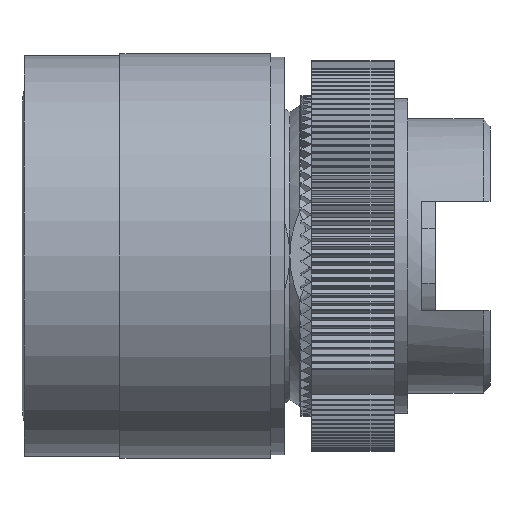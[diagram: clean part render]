
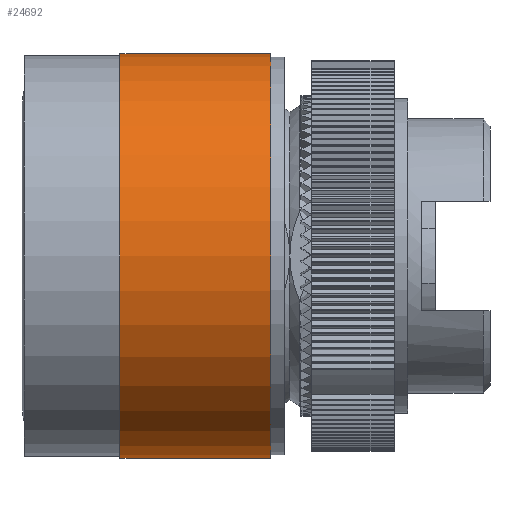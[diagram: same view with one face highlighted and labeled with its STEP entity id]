
A CAD part, left-side view. The second image highlights one B-rep face of the part: STEP entity #24692.
In plain terms, the highlighted cylindrical face has radius 14.75 mm (diameter 29.5 mm), a full revolution.
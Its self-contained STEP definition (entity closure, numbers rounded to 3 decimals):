
#2681 = DIRECTION ( 'NONE',  ( 0., 0., 1. ) ) ;
#2795 = EDGE_LOOP ( 'NONE', ( #11666 ) ) ;
#3255 = EDGE_CURVE ( 'NONE', #3861, #3861, #6508, .T. ) ;
#3861 = VERTEX_POINT ( 'NONE', #31217 ) ;
#4265 = VERTEX_POINT ( 'NONE', #21166 ) ;
#6508 = CIRCLE ( 'NONE', #18770, 14.75 ) ;
#7631 = EDGE_LOOP ( 'NONE', ( #23657 ) ) ;
#7805 = FACE_OUTER_BOUND ( 'NONE', #2795, .T. ) ;
#9392 = FACE_OUTER_BOUND ( 'NONE', #7631, .T. ) ;
#11547 = AXIS2_PLACEMENT_3D ( 'NONE', #17766, #15465, #2681 ) ;
#11666 = ORIENTED_EDGE ( 'NONE', *, *, #3255, .F. ) ;
#12221 = AXIS2_PLACEMENT_3D ( 'NONE', #18345, #20875, #26823 ) ;
#12724 = DIRECTION ( 'NONE',  ( 0., 0., 1. ) ) ;
#15465 = DIRECTION ( 'NONE',  ( 0., 1., 0. ) ) ;
#17442 = DIRECTION ( 'NONE',  ( 0., 1., 0. ) ) ;
#17766 = CARTESIAN_POINT ( 'NONE',  ( 0., 0., 0. ) ) ;
#18345 = CARTESIAN_POINT ( 'NONE',  ( 0., -6., 0. ) ) ;
#18770 = AXIS2_PLACEMENT_3D ( 'NONE', #30243, #17442, #12724 ) ;
#20875 = DIRECTION ( 'NONE',  ( 0., 1., 0. ) ) ;
#21166 = CARTESIAN_POINT ( 'NONE',  ( 0., -6., 14.75 ) ) ;
#23657 = ORIENTED_EDGE ( 'NONE', *, *, #27785, .T. ) ;
#24387 = CYLINDRICAL_SURFACE ( 'NONE', #11547, 14.75 ) ;
#24692 = ADVANCED_FACE ( 'NONE', ( #7805, #9392 ), #24387, .T. ) ;
#26823 = DIRECTION ( 'NONE',  ( 0., 0., 1. ) ) ;
#27785 = EDGE_CURVE ( 'NONE', #4265, #4265, #30918, .T. ) ;
#30243 = CARTESIAN_POINT ( 'NONE',  ( 0., 5., 0. ) ) ;
#30918 = CIRCLE ( 'NONE', #12221, 14.75 ) ;
#31217 = CARTESIAN_POINT ( 'NONE',  ( 0., 5., 14.75 ) ) ;
